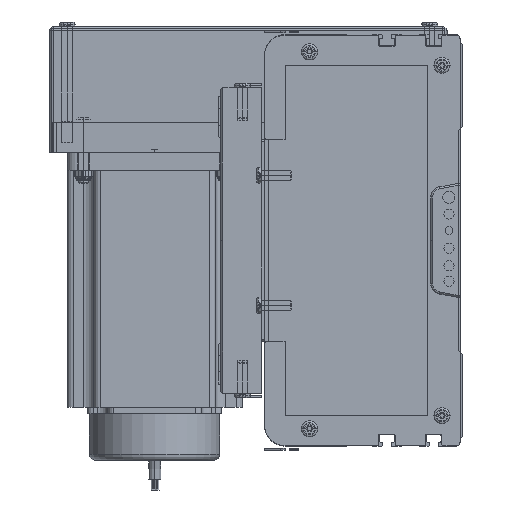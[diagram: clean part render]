
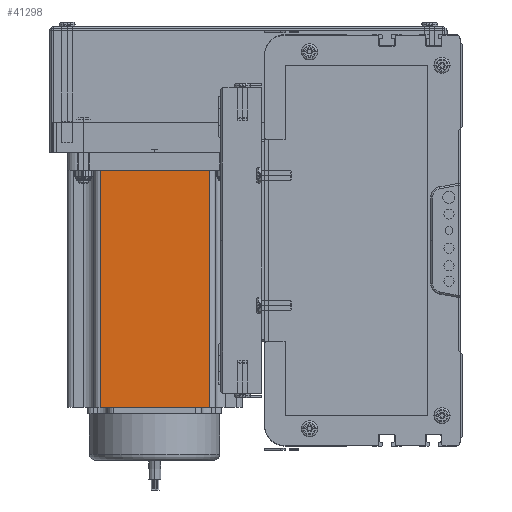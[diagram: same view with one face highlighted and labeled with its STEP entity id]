
A CAD part, left-side view. The second image highlights one B-rep face of the part: STEP entity #41298.
In plain terms, the highlighted planar face has unit normal (-1, 0, 0) as drawn and (0, -1, 0) by its records, which use the part's own axes.
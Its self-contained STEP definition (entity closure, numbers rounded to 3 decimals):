
#37548 = ORIENTED_EDGE ( 'NONE', *, *, #41461, .F. ) ;
#41096 = EDGE_CURVE ( 'NONE', #41467, #41336, #57059, .T. ) ;
#41298 = ADVANCED_FACE ( 'NONE', ( #57702 ), #57682, .F. ) ;
#41335 = ORIENTED_EDGE ( 'NONE', *, *, #41455, .T. ) ;
#41336 = VERTEX_POINT ( 'NONE', #58144 ) ;
#41455 = EDGE_CURVE ( 'NONE', #157267, #41467, #58472, .T. ) ;
#41458 = EDGE_LOOP ( 'NONE', ( #157072, #157098, #37548, #41335 ) ) ;
#41461 = EDGE_CURVE ( 'NONE', #157267, #157271, #58604, .T. ) ;
#41467 = VERTEX_POINT ( 'NONE', #58654 ) ;
#57059 = LINE ( 'NONE', #57350, #57339 ) ;
#57338 = DIRECTION ( 'NONE',  ( 1., 0., 0. ) ) ;
#57339 = VECTOR ( 'NONE', #57338, 1000. ) ;
#57350 = CARTESIAN_POINT ( 'NONE',  ( 0., 0., 0. ) ) ;
#57550 = DIRECTION ( 'NONE',  ( 0., 0., 1. ) ) ;
#57682 = PLANE ( 'NONE',  #57693 ) ;
#57693 = AXIS2_PLACEMENT_3D ( 'NONE', #57700, #57721, #57550 ) ;
#57700 = CARTESIAN_POINT ( 'NONE',  ( 0., 0., 116.5 ) ) ;
#57702 = FACE_OUTER_BOUND ( 'NONE', #41458, .T. ) ;
#57721 = DIRECTION ( 'NONE',  ( 0., 1., 0. ) ) ;
#58144 = CARTESIAN_POINT ( 'NONE',  ( 69.74, 0., 0. ) ) ;
#58469 = VECTOR ( 'NONE', #58591, 1000. ) ;
#58470 = CARTESIAN_POINT ( 'NONE',  ( 16.16, 0., 116.5 ) ) ;
#58472 = LINE ( 'NONE', #58470, #58469 ) ;
#58519 = VECTOR ( 'NONE', #58559, 1000. ) ;
#58521 = CARTESIAN_POINT ( 'NONE',  ( 0., 0., 116.5 ) ) ;
#58559 = DIRECTION ( 'NONE',  ( 1., 0., 0. ) ) ;
#58591 = DIRECTION ( 'NONE',  ( 0., 0., -1. ) ) ;
#58604 = LINE ( 'NONE', #58521, #58519 ) ;
#58654 = CARTESIAN_POINT ( 'NONE',  ( 16.16, 0., 0. ) ) ;
#124620 = DIRECTION ( 'NONE',  ( 0., 0., 1. ) ) ;
#124621 = VECTOR ( 'NONE', #124620, 1000. ) ;
#124622 = CARTESIAN_POINT ( 'NONE',  ( 69.74, 0., 116.5 ) ) ;
#124628 = LINE ( 'NONE', #124622, #124621 ) ;
#125171 = CARTESIAN_POINT ( 'NONE',  ( 69.74, 0., 116.5 ) ) ;
#125251 = CARTESIAN_POINT ( 'NONE',  ( 16.16, 0., 116.5 ) ) ;
#157072 = ORIENTED_EDGE ( 'NONE', *, *, #41096, .T. ) ;
#157098 = ORIENTED_EDGE ( 'NONE', *, *, #157100, .T. ) ;
#157100 = EDGE_CURVE ( 'NONE', #41336, #157271, #124628, .T. ) ;
#157267 = VERTEX_POINT ( 'NONE', #125251 ) ;
#157271 = VERTEX_POINT ( 'NONE', #125171 ) ;
